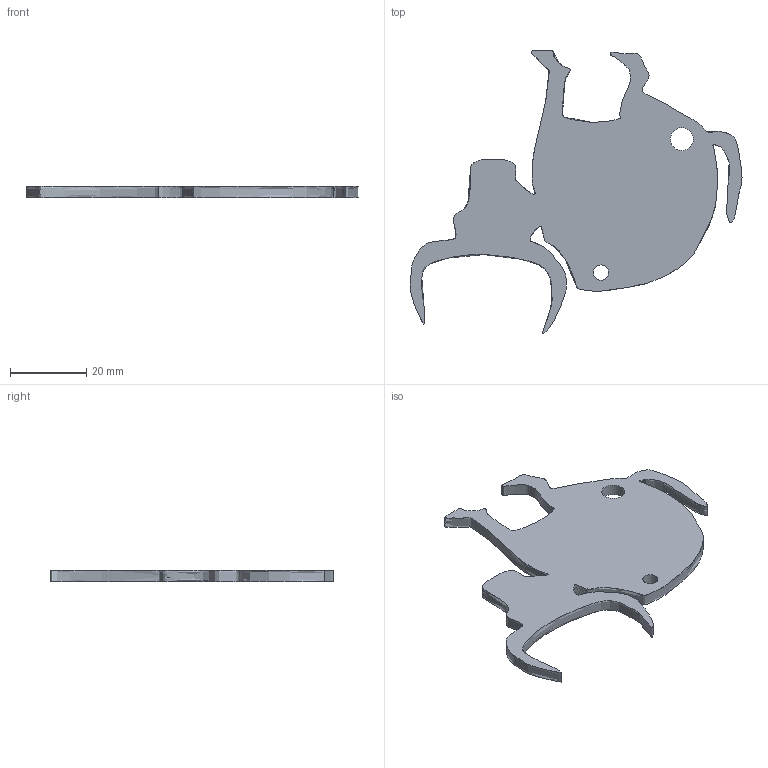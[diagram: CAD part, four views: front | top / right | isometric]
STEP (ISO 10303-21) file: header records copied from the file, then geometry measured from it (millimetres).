
FILE_DESCRIPTION(('STEP AP242'), '1');
FILE_NAME('bullshit', '', ('UNSPECIFIED'), ('UNSPECIFIED'), 'ASCON STEP Converter 1.6', 'ASCON Math Kernel', '');
FILE_SCHEMA(('AP242_MANAGED_MODEL_BASED_3D_ENGINEERING_MIM_LF { 1 0 10303 442 1 1 4 }'));
Length unit declared in the file: millimetre
Bounding box: 87 x 74.13 x 3 mm (x, y, z)
Volume: 12468.9 mm3; surface area: 11715 mm2
Topology: 1 solids, 1 shells, 5 faces, 9 edges, 6 vertices
Faces by surface type: plane 2, cylinder 2, extrusion 1
Full cylindrical faces by diameter (mm): 4 x1, 6 x1
Entity records: 1015 total; most frequent: CARTESIAN_POINT 837, DIRECTION 19, EDGE_LOOP 12, ORIENTED_EDGE 12, AXIS2_PLACEMENT_3D 9, COLOUR_RGB 6, FILL_AREA_STYLE_COLOUR 6, FILL_AREA_STYLE 6
